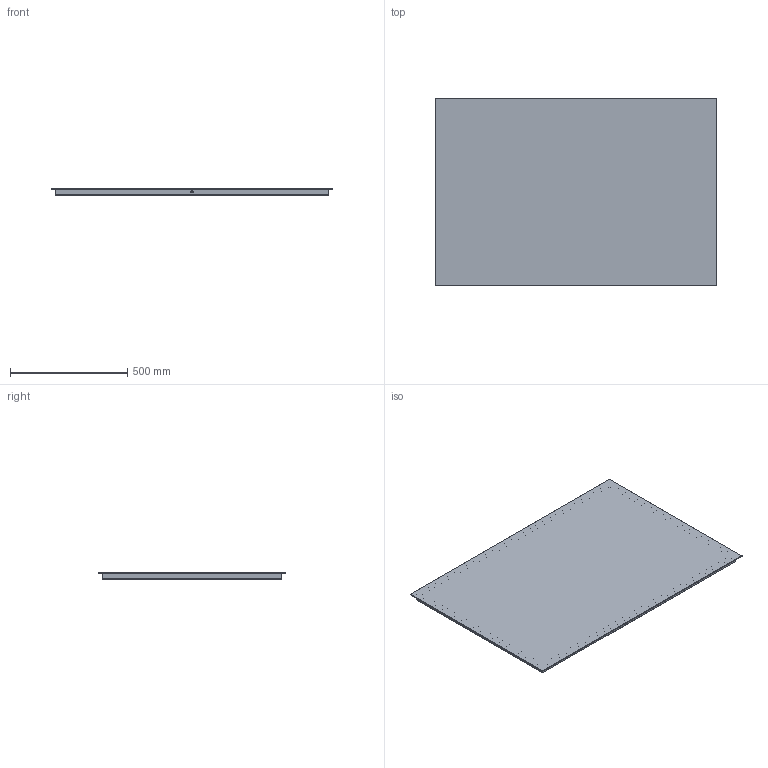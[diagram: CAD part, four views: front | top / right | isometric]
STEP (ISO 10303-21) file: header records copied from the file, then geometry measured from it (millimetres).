
FILE_DESCRIPTION (( 'STEP AP203' ), '1' );
FILE_NAME ('SPIEGEL MODEL 12 120CM.STEP', '2016-07-14T09:43:22', ( '' ), ( '' ), 'SwSTEP 2.0', 'SolidWorks 2016', '' );
FILE_SCHEMA (( 'CONFIG_CONTROL_DESIGN' ));
Length unit declared in the file: millimetre
Products named in the file (1): SPIEGEL MODEL 12 120CM
Bounding box: 1200 x 800 x 30 mm (x, y, z)
Volume: 5295400.7 mm3; surface area: 2132652 mm2
Topology: 1 solids, 1 shells, 53 faces, 114 edges, 68 vertices
Faces by surface type: plane 47, cylinder 6
Entity records: 1469 total; most frequent: CARTESIAN_POINT 236, DIRECTION 234, ORIENTED_EDGE 228, EDGE_CURVE 114, VECTOR 102, LINE 102, VERTEX_POINT 68, AXIS2_PLACEMENT_3D 66
